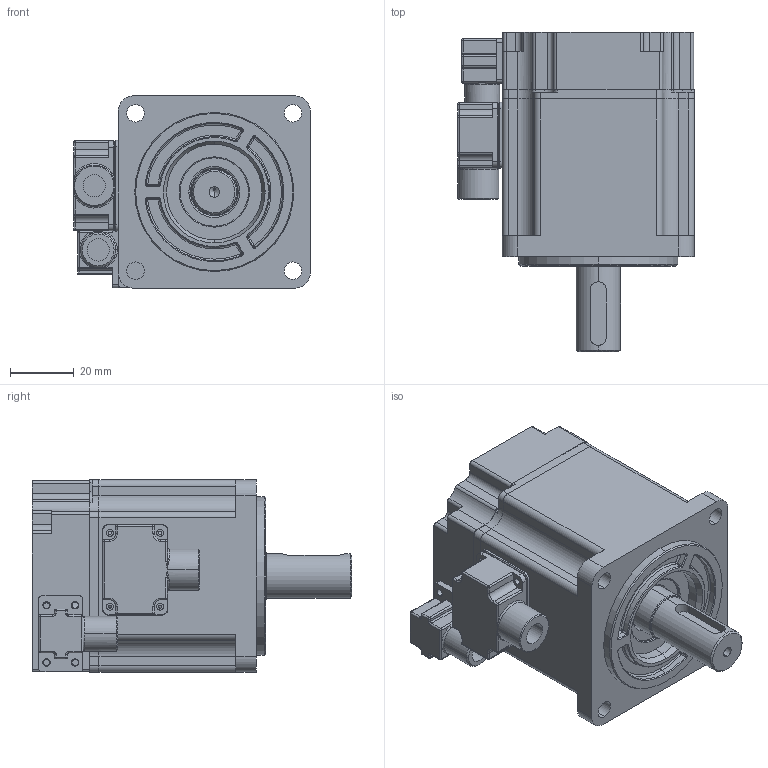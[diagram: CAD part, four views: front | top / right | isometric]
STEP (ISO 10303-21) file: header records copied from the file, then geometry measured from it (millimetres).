
FILE_DESCRIPTION (( 'STEP AP214' ), '1' );
FILE_NAME ('RSDA-H06J0630A.STEP', '2024-01-18T02:02:59', ( '' ), ( '' ), 'SwSTEP 2.0', 'SolidWorks 2023', '' );
FILE_SCHEMA (( 'AUTOMOTIVE_DESIGN' ));
Length unit declared in the file: millimetre
Products named in the file (19): 太阳花200W磁钢; 一体机200W常规轴; 锐特单圈磁编板; 一体机 编码器 出线壳; 6202ZZ轴承; 200W磁钢铁芯装配体; 一体机200W转子组件; RSDA-H06J0630A; 6000ZZ轴承; 60SF200一体机壳; φ13磁铁; 60太阳花 200W转子铁芯; 60一体机后盖; 太阳花定子-200W; φ13磁铁托盘; 一体机后罩; 200W定子组件; 一体机 动力线 出线壳; 13mm磁铁 装配体
Assembly tree (27 placements, depth 4):
  RSDA-H06J0630A
    200W定子组件
      60SF200一体机壳
      太阳花定子-200W
    一体机200W转子组件
      200W磁钢铁芯装配体
        60太阳花 200W转子铁芯
        太阳花200W磁钢  x10
      6202ZZ轴承
      6000ZZ轴承
      60一体机后盖
      一体机200W常规轴
    一体机后罩
    一体机 动力线 出线壳
    一体机 编码器 出线壳
    13mm磁铁 装配体
      φ13磁铁托盘
      φ13磁铁
    锐特单圈磁编板
Bounding box: 74.5 x 100.5 x 60.5 mm (x, y, z)
Volume: 170987.6 mm3; surface area: 102343.4 mm2
Topology: 25 solids, 25 shells, 1119 faces, 2844 edges, 1764 vertices
Faces by surface type: cylinder 506, plane 410, cone 112, torus 49, sphere 28, bspline 14
Entity records: 33844 total; most frequent: CARTESIAN_POINT 6495, DIRECTION 5996, ORIENTED_EDGE 5364, EDGE_CURVE 2682, AXIS2_PLACEMENT_3D 2290, VERTEX_POINT 1692, VECTOR 1416, LINE 1416
